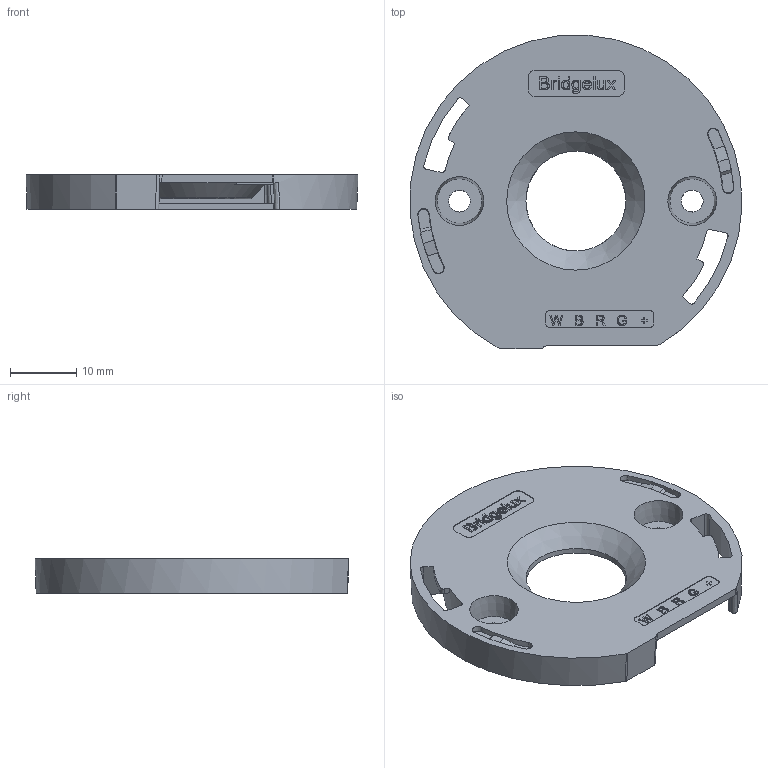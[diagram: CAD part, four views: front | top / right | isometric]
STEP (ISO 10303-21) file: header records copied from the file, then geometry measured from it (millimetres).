
FILE_DESCRIPTION(/* description */ (''),/* implementation_level */ '2;1');
FILE_NAME(/* name */ '1.07.33844-2023.12.18.stp',/* time_stamp */ '2023-12-18T13:09:30+08:00',/* author */ (''),/* organization */ (''),/* preprocessor_version */ 'ST-DEVELOPER v16',/* originating_system */ 'SIEMENS PLM Software NX 10.0',/* authorisation */ '');
FILE_SCHEMA (('AP203_CONFIGURATION_CONTROLLED_3D_DESIGN_OF_MECHANICAL_PARTS_AND_ASSEMBLIES_MIM_LF { 1 0 10303 403 2 1 2}'));
Length unit declared in the file: millimetre
Products named in the file (1): Admi324C0103uf7t
Bounding box: 49.93 x 47.18 x 5.2 mm (x, y, z)
Volume: 4062.9 mm3; surface area: 5702.9 mm2
Topology: 1 solids, 1 shells, 956 faces, 2781 edges, 1856 vertices
Faces by surface type: plane 811, extrusion 59, bspline 29, cone 28, cylinder 28, torus 1
Entity records: 40442 total; most frequent: CARTESIAN_POINT 10414, ORIENTED_EDGE 5544, DIRECTION 3665, EDGE_CURVE 2772, VERTEX_POINT 1853, VECTOR 1687, LINE 1628, B_SPLINE_CURVE_WITH_KNOTS 1083
